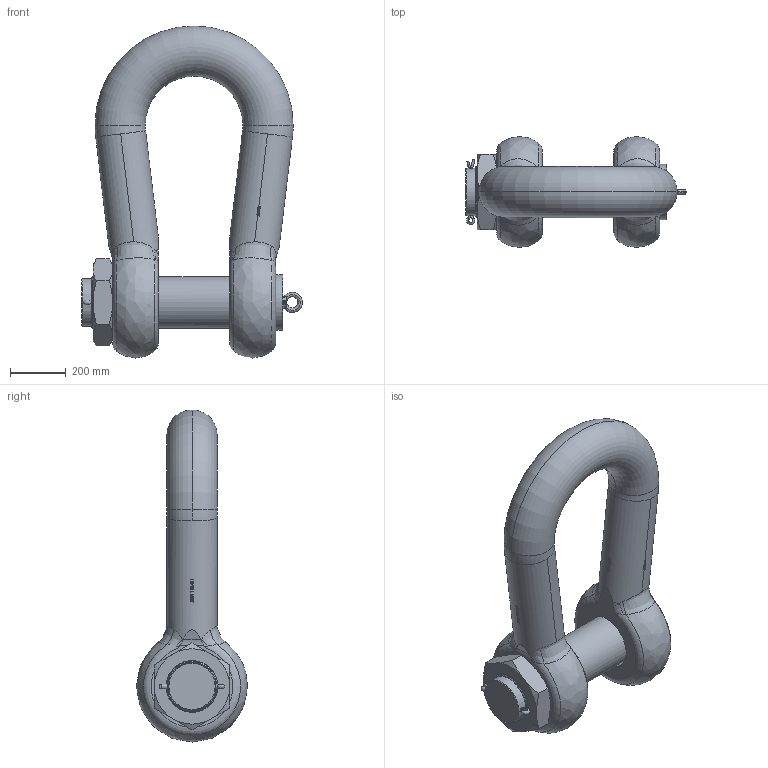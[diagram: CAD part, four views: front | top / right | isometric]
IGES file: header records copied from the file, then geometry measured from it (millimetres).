
Global section: file name: No Iges File Name specified; native system: Autodesk Inventor 2009; preprocessor: AutoDesk Inventor Iges Exporter R2009; author: Jack; date: 20091212.143930; units: millimetre
Bounding box: 791 x 398 x 1189.49 mm (x, y, z)
Volume: 92385532.1 mm3; surface area: 2538208.8 mm2
Topology: 5 solids, 5 shells, 829 faces, 2221 edges, 1457 vertices
Faces by surface type: plane 392, bspline 251, cylinder 108, revolution 36, torus 22, cone 20
Full cylindrical faces by diameter (mm): 185 x15
